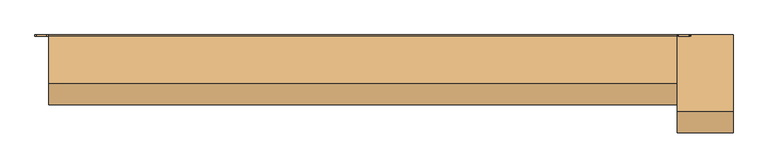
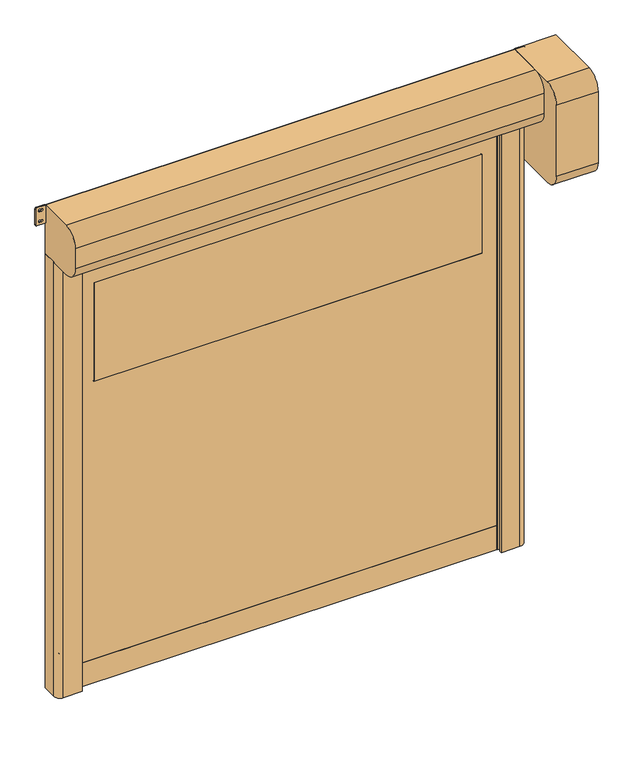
"""IFC4 building model written with IfcOpenShell, lengths in millimetres: door geometry, DO_WPB_DynaSeal_BMP : DynaSeal."""

from ifc_helpers import new_model, si_unit, point, frame, frame_2d, origin, origin_with_axes, place, context, project, spatial, polyline, circle_curve, trimmed, segment, composite_curve, outline, extrude, source, transform, mapped, element, save


def door_73d46575(model_context):
    return source(origin(), model_context, "Body", "SweptSolid", [
        extrude(outline(composite_curve([segment(trimmed(circle_curve(frame_2d((1416.6666667, 1064.0)), 6.0), [point((1422.6666667, 1064.0))], [point((1410.6666667, 1064.0))], False, "CARTESIAN"), True, "CONTINUOUS"), segment(polyline([(1410.6666667, 1064.0), (1410.6666667, 1082.0)]), True, "CONTINUOUS"), segment(trimmed(circle_curve(frame_2d((1416.6666667, 1082.0)), 6.0), [point((1410.6666667, 1082.0))], [point((1422.6666667, 1082.0))], False, "CARTESIAN"), True, "CONTINUOUS"), segment(polyline([(1422.6666667, 1082.0), (1422.6666667, 1064.0)]), True, "CONTINUOUS")], self_intersect=False)), frame((0.0, -20.0, 0.0), z_axis=(0.0, 1.0, 0.0), x_axis=(0.0, 0.0, 1.0)), (0.0, 0.0, 1.0), 20.0),
        extrude(outline(composite_curve([segment(trimmed(circle_curve(frame_2d((783.3333333, 1064.0)), 6.0), [point((789.3333333, 1064.0))], [point((777.3333333, 1064.0))], False, "CARTESIAN"), True, "CONTINUOUS"), segment(polyline([(777.3333333, 1064.0), (777.3333333, 1082.0)]), True, "CONTINUOUS"), segment(trimmed(circle_curve(frame_2d((783.3333333, 1082.0)), 6.0), [point((777.3333333, 1082.0))], [point((789.3333333, 1082.0))], False, "CARTESIAN"), True, "CONTINUOUS"), segment(polyline([(789.3333333, 1082.0), (789.3333333, 1064.0)]), True, "CONTINUOUS")], self_intersect=False)), frame((0.0, -20.0, 0.0), z_axis=(0.0, 1.0, 0.0), x_axis=(0.0, 0.0, 1.0)), (0.0, 0.0, 1.0), 20.0),
        extrude(outline(composite_curve([segment(trimmed(circle_curve(frame_2d((2050.0, 1064.0)), 6.0), [point((2056.0, 1064.0))], [point((2044.0, 1064.0))], False, "CARTESIAN"), True, "CONTINUOUS"), segment(polyline([(2044.0, 1064.0), (2044.0, 1082.0)]), True, "CONTINUOUS"), segment(trimmed(circle_curve(frame_2d((2050.0, 1082.0)), 6.0), [point((2044.0, 1082.0))], [point((2056.0, 1082.0))], False, "CARTESIAN"), True, "CONTINUOUS"), segment(polyline([(2056.0, 1082.0), (2056.0, 1064.0)]), True, "CONTINUOUS")], self_intersect=False)), frame((0.0, -20.0, 0.0), z_axis=(0.0, 1.0, 0.0), x_axis=(0.0, 0.0, 1.0)), (0.0, 0.0, 1.0), 20.0),
        extrude(outline(composite_curve([segment(trimmed(circle_curve(frame_2d((150.0, 1064.0)), 6.0), [point((156.0, 1064.0))], [point((144.0, 1064.0))], False, "CARTESIAN"), True, "CONTINUOUS"), segment(polyline([(144.0, 1064.0), (144.0, 1082.0)]), True, "CONTINUOUS"), segment(trimmed(circle_curve(frame_2d((150.0, 1082.0)), 6.0), [point((144.0, 1082.0))], [point((156.0, 1082.0))], False, "CARTESIAN"), True, "CONTINUOUS"), segment(polyline([(156.0, 1082.0), (156.0, 1064.0)]), True, "CONTINUOUS")], self_intersect=False)), frame((0.0, -20.0, 0.0), z_axis=(0.0, 1.0, 0.0), x_axis=(0.0, 0.0, 1.0)), (0.0, 0.0, 1.0), 20.0),
        extrude(outline(composite_curve([segment(polyline([(1422.6666667, -1064.0), (1422.6666667, -1082.0)]), True, "CONTINUOUS"), segment(trimmed(circle_curve(frame_2d((1416.6666667, -1082.0)), 6.0), [point((1422.6666667, -1082.0))], [point((1410.6666667, -1082.0))], False, "CARTESIAN"), True, "CONTINUOUS"), segment(polyline([(1410.6666667, -1082.0), (1410.6666667, -1064.0)]), True, "CONTINUOUS"), segment(trimmed(circle_curve(frame_2d((1416.6666667, -1064.0)), 6.0), [point((1410.6666667, -1064.0))], [point((1422.6666667, -1064.0))], False, "CARTESIAN"), True, "CONTINUOUS")], self_intersect=False)), frame((0.0, -20.0, 0.0), z_axis=(0.0, 1.0, 0.0), x_axis=(0.0, 0.0, 1.0)), (0.0, 0.0, 1.0), 20.0),
        extrude(outline(composite_curve([segment(polyline([(789.3333333, -1064.0), (789.3333333, -1082.0)]), True, "CONTINUOUS"), segment(trimmed(circle_curve(frame_2d((783.3333333, -1082.0)), 6.0), [point((789.3333333, -1082.0))], [point((777.3333333, -1082.0))], False, "CARTESIAN"), True, "CONTINUOUS"), segment(polyline([(777.3333333, -1082.0), (777.3333333, -1064.0)]), True, "CONTINUOUS"), segment(trimmed(circle_curve(frame_2d((783.3333333, -1064.0)), 6.0), [point((777.3333333, -1064.0))], [point((789.3333333, -1064.0))], False, "CARTESIAN"), True, "CONTINUOUS")], self_intersect=False)), frame((0.0, -20.0, 0.0), z_axis=(0.0, 1.0, 0.0), x_axis=(0.0, 0.0, 1.0)), (0.0, 0.0, 1.0), 20.0),
        extrude(outline(composite_curve([segment(polyline([(2056.0, -1064.0), (2056.0, -1082.0)]), True, "CONTINUOUS"), segment(trimmed(circle_curve(frame_2d((2050.0, -1082.0)), 6.0), [point((2056.0, -1082.0))], [point((2044.0, -1082.0))], False, "CARTESIAN"), True, "CONTINUOUS"), segment(polyline([(2044.0, -1082.0), (2044.0, -1064.0)]), True, "CONTINUOUS"), segment(trimmed(circle_curve(frame_2d((2050.0, -1064.0)), 6.0), [point((2044.0, -1064.0))], [point((2056.0, -1064.0))], False, "CARTESIAN"), True, "CONTINUOUS")], self_intersect=False)), frame((0.0, -20.0, 0.0), z_axis=(0.0, 1.0, 0.0), x_axis=(0.0, 0.0, 1.0)), (0.0, 0.0, 1.0), 20.0),
        extrude(outline(composite_curve([segment(polyline([(156.0, -1064.0), (156.0, -1082.0)]), True, "CONTINUOUS"), segment(trimmed(circle_curve(frame_2d((150.0, -1082.0)), 6.0), [point((156.0, -1082.0))], [point((144.0, -1082.0))], False, "CARTESIAN"), True, "CONTINUOUS"), segment(polyline([(144.0, -1082.0), (144.0, -1064.0)]), True, "CONTINUOUS"), segment(trimmed(circle_curve(frame_2d((150.0, -1064.0)), 6.0), [point((144.0, -1064.0))], [point((156.0, -1064.0))], False, "CARTESIAN"), True, "CONTINUOUS")], self_intersect=False)), frame((0.0, -20.0, 0.0), z_axis=(0.0, 1.0, 0.0), x_axis=(0.0, 0.0, 1.0)), (0.0, 0.0, 1.0), 20.0),
        extrude(outline(composite_curve([segment(trimmed(circle_curve(frame_2d((1526.0, 929.0)), 1.0), [point((1525.0, 929.0))], [point((1526.0, 930.0))], False, "CARTESIAN"), True, "CONTINUOUS"), segment(polyline([(1526.0, 930.0), (2024.0, 930.0)]), True, "CONTINUOUS"), segment(trimmed(circle_curve(frame_2d((2024.0, 929.0)), 1.0), [point((2024.0, 930.0))], [point((2025.0, 929.0))], False, "CARTESIAN"), True, "CONTINUOUS"), segment(polyline([(2025.0, 929.0), (2025.0, -929.0)]), True, "CONTINUOUS"), segment(trimmed(circle_curve(frame_2d((2024.0, -929.0)), 1.0), [point((2025.0, -929.0))], [point((2024.0, -930.0))], False, "CARTESIAN"), True, "CONTINUOUS"), segment(polyline([(2024.0, -930.0), (1526.0, -930.0)]), True, "CONTINUOUS"), segment(trimmed(circle_curve(frame_2d((1526.0, -929.0)), 1.0), [point((1526.0, -930.0))], [point((1525.0, -929.0))], False, "CARTESIAN"), True, "CONTINUOUS"), segment(polyline([(1525.0, -929.0), (1525.0, 929.0)]), True, "CONTINUOUS")], self_intersect=False)), frame((0.0, -68.5, 0.0), z_axis=(0.0, 1.0, 0.0), x_axis=(0.0, 0.0, 1.0)), (0.0, 0.0, 1.0), 7.0),
        extrude(outline(polyline([(120.0, -1012.0), (120.0, 1012.0), (2325.0, 1012.0), (2325.0, -1012.0), (120.0, -1012.0)]), holes=[composite_curve([segment(trimmed(circle_curve(frame_2d((1526.0, 929.0)), 1.0), [point((1526.0, 930.0))], [point((1525.0, 929.0))], True, "CARTESIAN"), True, "CONTINUOUS"), segment(polyline([(1525.0, 929.0), (1525.0, -929.0)]), True, "CONTINUOUS"), segment(trimmed(circle_curve(frame_2d((1526.0, -929.0)), 1.0), [point((1525.0, -929.0))], [point((1526.0, -930.0))], True, "CARTESIAN"), True, "CONTINUOUS"), segment(polyline([(1526.0, -930.0), (2024.0, -930.0)]), True, "CONTINUOUS"), segment(trimmed(circle_curve(frame_2d((2024.0, -929.0)), 1.0), [point((2024.0, -930.0))], [point((2025.0, -929.0))], True, "CARTESIAN"), True, "CONTINUOUS"), segment(polyline([(2025.0, -929.0), (2025.0, 929.0)]), True, "CONTINUOUS"), segment(trimmed(circle_curve(frame_2d((2024.0, 929.0)), 1.0), [point((2025.0, 929.0))], [point((2024.0, 930.0))], True, "CARTESIAN"), True, "CONTINUOUS"), segment(polyline([(2024.0, 930.0), (1526.0, 930.0)]), True, "CONTINUOUS")], self_intersect=False)]), frame((0.0, -68.5, 0.0), z_axis=(0.0, 1.0, 0.0), x_axis=(0.0, 0.0, 1.0)), (0.0, 0.0, 1.0), 7.0),
        extrude(outline(polyline([(-1012.0, -59.5), (1012.0, -59.5), (1012.0, -70.5), (-1012.0, -70.5), (-1012.0, -59.5)])), origin_with_axes(), (0.0, 0.0, 1.0), 120.0),
        extrude(outline(composite_curve([segment(trimmed(circle_curve(frame_2d((2363.75, 1130.75)), 5.75), [point((2363.75, 1125.0))], [point((2358.0, 1130.75))], False, "CARTESIAN"), True, "CONTINUOUS"), segment(polyline([(2358.0, 1130.75), (2358.0, 1168.25)]), True, "CONTINUOUS"), segment(trimmed(circle_curve(frame_2d((2363.75, 1168.25)), 5.75), [point((2358.0, 1168.25))], [point((2363.75, 1174.0))], False, "CARTESIAN"), True, "CONTINUOUS"), segment(polyline([(2363.75, 1174.0), (2444.25, 1174.0)]), True, "CONTINUOUS"), segment(trimmed(circle_curve(frame_2d((2444.25, 1168.25)), 5.75), [point((2444.25, 1174.0))], [point((2450.0, 1168.25))], False, "CARTESIAN"), True, "CONTINUOUS"), segment(polyline([(2450.0, 1168.25), (2450.0, 1130.75)]), True, "CONTINUOUS"), segment(trimmed(circle_curve(frame_2d((2444.25, 1130.75)), 5.75), [point((2450.0, 1130.75))], [point((2444.25, 1125.0))], False, "CARTESIAN"), True, "CONTINUOUS"), segment(polyline([(2444.25, 1125.0), (2363.75, 1125.0)]), True, "CONTINUOUS")], self_intersect=False), holes=[composite_curve([segment(trimmed(circle_curve(frame_2d((2431.5, 1153.75)), 5.75), [point((2437.25, 1153.75))], [point((2425.75, 1153.75))], True, "CARTESIAN"), True, "CONTINUOUS"), segment(polyline([(2425.75, 1153.75), (2425.75, 1145.25)]), True, "CONTINUOUS"), segment(trimmed(circle_curve(frame_2d((2431.5, 1145.25)), 5.75), [point((2425.75, 1145.25))], [point((2437.25, 1145.25))], True, "CARTESIAN"), True, "CONTINUOUS"), segment(polyline([(2437.25, 1145.25), (2437.25, 1153.75)]), True, "CONTINUOUS")], self_intersect=False), composite_curve([segment(trimmed(circle_curve(frame_2d((2376.5, 1153.75)), 5.75), [point((2382.25, 1153.75))], [point((2370.75, 1153.75))], True, "CARTESIAN"), True, "CONTINUOUS"), segment(polyline([(2370.75, 1153.75), (2370.75, 1145.25)]), True, "CONTINUOUS"), segment(trimmed(circle_curve(frame_2d((2376.5, 1145.25)), 5.75), [point((2370.75, 1145.25))], [point((2382.25, 1145.25))], True, "CARTESIAN"), True, "CONTINUOUS"), segment(polyline([(2382.25, 1145.25), (2382.25, 1153.75)]), True, "CONTINUOUS")], self_intersect=False)]), frame((0.0, -5.0, 0.0), z_axis=(0.0, 1.0, 0.0), x_axis=(0.0, 0.0, 1.0)), (0.0, 0.0, 1.0), 5.0),
        extrude(outline(composite_curve([segment(trimmed(circle_curve(frame_2d((2363.75, -1168.25)), 5.75), [point((2363.75, -1174.0))], [point((2358.0, -1168.25))], False, "CARTESIAN"), True, "CONTINUOUS"), segment(polyline([(2358.0, -1168.25), (2358.0, -1130.75)]), True, "CONTINUOUS"), segment(trimmed(circle_curve(frame_2d((2363.75, -1130.75)), 5.75), [point((2358.0, -1130.75))], [point((2363.75, -1125.0))], False, "CARTESIAN"), True, "CONTINUOUS"), segment(polyline([(2363.75, -1125.0), (2444.25, -1125.0)]), True, "CONTINUOUS"), segment(trimmed(circle_curve(frame_2d((2444.25, -1130.75)), 5.75), [point((2444.25, -1125.0))], [point((2450.0, -1130.75))], False, "CARTESIAN"), True, "CONTINUOUS"), segment(polyline([(2450.0, -1130.75), (2450.0, -1168.25)]), True, "CONTINUOUS"), segment(trimmed(circle_curve(frame_2d((2444.25, -1168.25)), 5.75), [point((2450.0, -1168.25))], [point((2444.25, -1174.0))], False, "CARTESIAN"), True, "CONTINUOUS"), segment(polyline([(2444.25, -1174.0), (2363.75, -1174.0)]), True, "CONTINUOUS")], self_intersect=False), holes=[composite_curve([segment(trimmed(circle_curve(frame_2d((2431.5, -1145.25)), 5.75), [point((2437.25, -1145.25))], [point((2425.75, -1145.25))], True, "CARTESIAN"), True, "CONTINUOUS"), segment(polyline([(2425.75, -1145.25), (2425.75, -1153.75)]), True, "CONTINUOUS"), segment(trimmed(circle_curve(frame_2d((2431.5, -1153.75)), 5.75), [point((2425.75, -1153.75))], [point((2437.25, -1153.75))], True, "CARTESIAN"), True, "CONTINUOUS"), segment(polyline([(2437.25, -1153.75), (2437.25, -1145.25)]), True, "CONTINUOUS")], self_intersect=False), composite_curve([segment(trimmed(circle_curve(frame_2d((2376.5, -1145.25)), 5.75), [point((2382.25, -1145.25))], [point((2370.75, -1145.25))], True, "CARTESIAN"), True, "CONTINUOUS"), segment(polyline([(2370.75, -1145.25), (2370.75, -1153.75)]), True, "CONTINUOUS"), segment(trimmed(circle_curve(frame_2d((2376.5, -1153.75)), 5.75), [point((2370.75, -1153.75))], [point((2382.25, -1153.75))], True, "CARTESIAN"), True, "CONTINUOUS"), segment(polyline([(2382.25, -1153.75), (2382.25, -1145.25)]), True, "CONTINUOUS")], self_intersect=False)]), frame((0.0, -5.0, 0.0), z_axis=(0.0, 1.0, 0.0), x_axis=(0.0, 0.0, 1.0)), (0.0, 0.0, 1.0), 5.0),
        extrude(outline(composite_curve([segment(polyline([(-1125.0, 0.0), (-1015.0, 0.0), (-1015.0, -49.2857143), (-1035.0, -55.0), (-1000.0, -55.0), (-1000.0, -61.5), (-1020.0, -61.5), (-1020.0, -68.5), (-1000.0, -68.5), (-1000.0, -75.0), (-1035.0, -75.0), (-1035.0, -90.0), (-1005.0, -90.0), (-1005.0, -100.0), (-1095.0, -100.0)]), True, "CONTINUOUS"), segment(trimmed(circle_curve(frame_2d((-1095.0, -70.0)), 30.0), [point((-1095.0, -100.0))], [point((-1125.0, -70.0))], False, "CARTESIAN"), True, "CONTINUOUS"), segment(polyline([(-1125.0, -70.0), (-1125.0, 0.0)]), True, "CONTINUOUS")], self_intersect=False)), origin_with_axes(), (0.0, 0.0, 1.0), 2200.0),
        extrude(outline(composite_curve([segment(polyline([(1125.0, 0.0), (1125.0, -70.0)]), True, "CONTINUOUS"), segment(trimmed(circle_curve(frame_2d((1095.0, -70.0)), 30.0), [point((1125.0, -70.0))], [point((1095.0, -100.0))], False, "CARTESIAN"), True, "CONTINUOUS"), segment(polyline([(1095.0, -100.0), (1005.0, -100.0), (1005.0, -90.0), (1035.0, -90.0), (1035.0, -75.0), (1000.0, -75.0), (1000.0, -68.5), (1020.0, -68.5), (1020.0, -61.5), (1000.0, -61.5), (1000.0, -55.0), (1035.0, -55.0), (1015.0, -49.2857143), (1015.0, 0.0), (1125.0, 0.0)]), True, "CONTINUOUS")], self_intersect=False)), origin_with_axes(), (0.0, 0.0, 1.0), 2200.0),
        extrude(outline(composite_curve([segment(polyline([(0.0, 2450.0), (0.0, 1940.0), (-275.0, 1940.0)]), True, "CONTINUOUS"), segment(trimmed(circle_curve(frame_2d((-275.0, 2015.0)), 75.0), [point((-275.0, 1940.0))], [point((-350.0, 2015.0))], False, "CARTESIAN"), True, "CONTINUOUS"), segment(polyline([(-350.0, 2015.0), (-350.0, 2375.0)]), True, "CONTINUOUS"), segment(trimmed(circle_curve(frame_2d((-275.0, 2375.0)), 75.0), [point((-350.0, 2375.0))], [point((-275.0, 2450.0))], False, "CARTESIAN"), True, "CONTINUOUS"), segment(polyline([(-275.0, 2450.0), (0.0, 2450.0)]), True, "CONTINUOUS")], self_intersect=False)), frame((1125.0, 0.0, 0.0), z_axis=(1.0, 0.0, 0.0), x_axis=(0.0, 1.0, 0.0)), (0.0, 0.0, 1.0), 200.0),
        extrude(outline(composite_curve([segment(trimmed(circle_curve(frame_2d((-5.0, 2205.0)), 5.0), [point((0.0, 2205.0))], [point((-5.0, 2200.0))], False, "CARTESIAN"), True, "CONTINUOUS"), segment(polyline([(-5.0, 2200.0), (-175.0, 2200.0)]), True, "CONTINUOUS"), segment(trimmed(circle_curve(frame_2d((-175.0, 2275.0)), 75.0), [point((-175.0, 2200.0))], [point((-250.0, 2275.0))], False, "CARTESIAN"), True, "CONTINUOUS"), segment(polyline([(-250.0, 2275.0), (-250.0, 2375.0)]), True, "CONTINUOUS"), segment(trimmed(circle_curve(frame_2d((-175.0, 2375.0)), 75.0), [point((-250.0, 2375.0))], [point((-175.0, 2450.0))], False, "CARTESIAN"), True, "CONTINUOUS"), segment(polyline([(-175.0, 2450.0), (-5.0, 2450.0)]), True, "CONTINUOUS"), segment(trimmed(circle_curve(frame_2d((-5.0, 2445.0)), 5.0), [point((-5.0, 2450.0))], [point((0.0, 2445.0))], False, "CARTESIAN"), True, "CONTINUOUS"), segment(polyline([(0.0, 2445.0), (0.0, 2205.0)]), True, "CONTINUOUS")], self_intersect=False)), frame((-1125.0, 0.0, 0.0), z_axis=(1.0, 0.0, 0.0), x_axis=(0.0, 1.0, 0.0)), (0.0, 0.0, 1.0), 2250.0),
    ])


if __name__ == "__main__":
    model = new_model("IFC4")
    model_context = context("Model", 3, world=origin())
    ifc_project = project(units=[si_unit("LENGTHUNIT", "METRE", prefix="MILLI")], contexts=[model_context])
    site = spatial("IfcSite", under=ifc_project)
    building = spatial("IfcBuilding", under=site)
    placement = place(None, origin())
    door_shape = door_73d46575(model_context)
    element("IfcDoor", 1, ObjectType="DO_WPB_DynaSeal_BMP : DynaSeal", at=placement, inside=building, context=model_context, shape_type="MappedRepresentation", body=[
        mapped(door_shape, transform((0.0, 0.0, 0.0), x_axis=(1.0, 0.0, 0.0), y_axis=(0.0, 1.0, 0.0), z_axis=(0.0, 0.0, 1.0))),
    ])
    save(model, "model.ifc")
